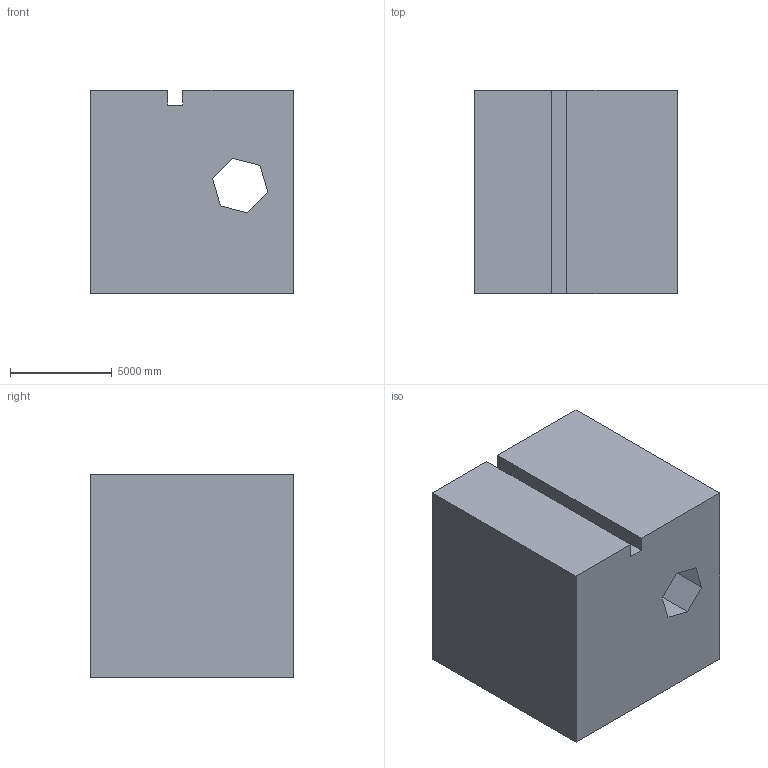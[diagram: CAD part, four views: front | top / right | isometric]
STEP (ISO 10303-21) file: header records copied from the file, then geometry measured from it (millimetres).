
FILE_DESCRIPTION (( 'STEP AP203' ), '1' );
FILE_NAME ('118.STEP', '2022-09-05T15:35:40', ( 'user' ), ( '' ), 'SwSTEP 2.0', 'SolidWorks 2021', '' );
FILE_SCHEMA (( 'CONFIG_CONTROL_DESIGN' ));
Length unit declared in the file: centimetre
Products named in the file (1): 118
Bounding box: 10000 x 10000 x 10000 mm (x, y, z)
Volume: 943670792832 mm3; surface area: 687234231.2 mm2
Topology: 1 solids, 1 shells, 16 faces, 42 edges, 28 vertices
Faces by surface type: plane 16
Entity records: 567 total; most frequent: CARTESIAN_POINT 87, ORIENTED_EDGE 84, DIRECTION 76, EDGE_CURVE 42, LINE 42, VECTOR 42, VERTEX_POINT 28, EDGE_LOOP 18
